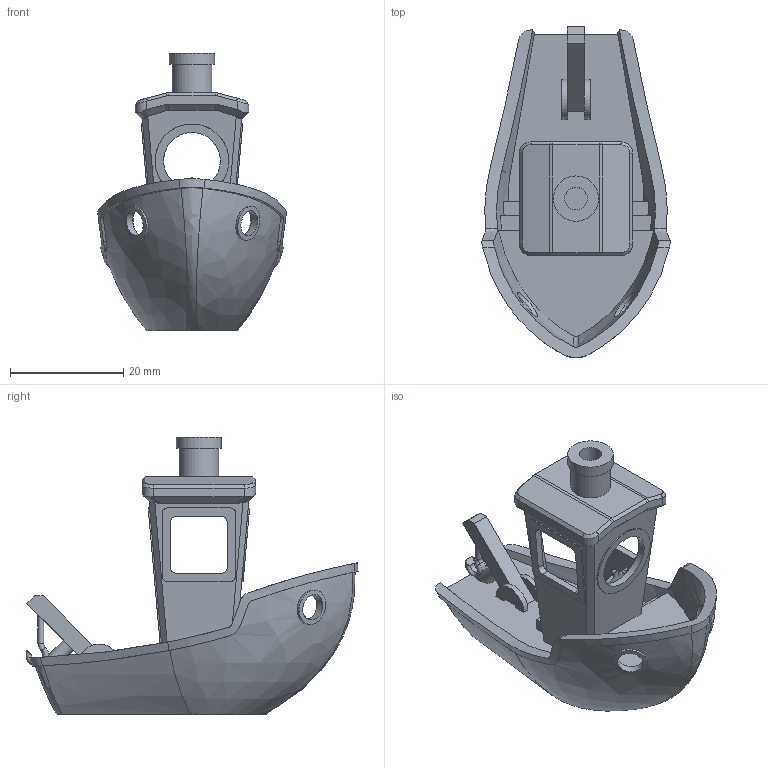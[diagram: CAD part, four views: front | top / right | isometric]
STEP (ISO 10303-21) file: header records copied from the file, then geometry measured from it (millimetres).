
FILE_DESCRIPTION(/* description */ ('','CAx-IF Rec.Pracs.---Representation and Presentation of Product Manufacturing Information (PMI)---4.0---2014-10-13'),/* implementation_level */ '2;1');
FILE_NAME(/* name */ '3DTuggy STEP.step',/* time_stamp */ '2025-01-27T11:36:42-05:00',/* author */ (''),/* organization */ (''),/* preprocessor_version */ 'ST-DEVELOPER v20',/* originating_system */ 'Autodesk Translation Framework v13.20.0.188',/* authorisation */ '');
FILE_SCHEMA (('AP242_MANAGED_MODEL_BASED_3D_ENGINEERING_MIM_LF { 1 0 10303 442 1 1 4 }'));
Length unit declared in the file: millimetre
Products named in the file (1): 3DTuggy STEP
Bounding box: 33.19 x 58.56 x 49 mm (x, y, z)
Volume: 13763.8 mm3; surface area: 8856.3 mm2
Topology: 1 solids, 1 shells, 360 faces, 977 edges, 617 vertices
Faces by surface type: plane 140, cylinder 117, bspline 70, torus 29, cone 4
Full cylindrical faces by diameter (mm): 1 x1, 2.5 x1, 4 x1, 4.5 x2, 6 x2, 7 x1, 8 x1, 10 x1, 13 x1
Entity records: 15982 total; most frequent: CARTESIAN_POINT 7391, ORIENTED_EDGE 1946, DIRECTION 1559, EDGE_CURVE 973, VERTEX_POINT 617, AXIS2_PLACEMENT_3D 550, LINE 459, VECTOR 459
